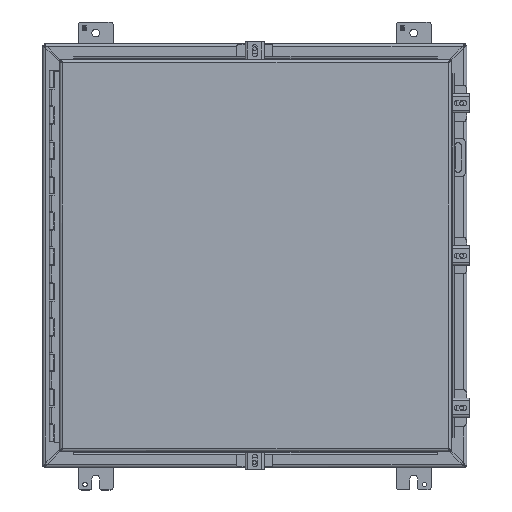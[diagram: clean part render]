
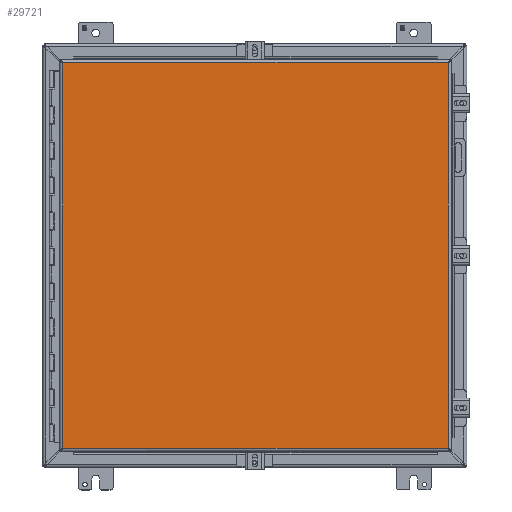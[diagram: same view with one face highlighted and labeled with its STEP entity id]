
A CAD part, top view. The second image highlights one B-rep face of the part: STEP entity #29721.
In plain terms, the highlighted planar face has unit normal (0, 0, 1) as drawn and (0, 0, -1) by its records, which use the part's own axes.
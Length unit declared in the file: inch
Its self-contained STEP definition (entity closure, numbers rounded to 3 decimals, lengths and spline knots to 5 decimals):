
#25363 = DIRECTION ( 'NONE',  ( 1., 0., 0. ) ) ;
#25364 = VECTOR ( 'NONE', #25363, 39.37008 ) ;
#25365 = CARTESIAN_POINT ( 'NONE',  ( -11.01893, 10.916, 0. ) ) ;
#25366 = LINE ( 'NONE', #25365, #25364 ) ;
#25371 = CARTESIAN_POINT ( 'NONE',  ( 10.916, 10.916, 0. ) ) ;
#25373 = CARTESIAN_POINT ( 'NONE',  ( -10.916, 10.916, 0. ) ) ;
#25424 = VECTOR ( 'NONE', #25484, 39.37008 ) ;
#25425 = CARTESIAN_POINT ( 'NONE',  ( -10.916, -11.01893, 0. ) ) ;
#25426 = LINE ( 'NONE', #25425, #25424 ) ;
#25427 = DIRECTION ( 'NONE',  ( -1., 0., 0. ) ) ;
#25428 = VECTOR ( 'NONE', #25427, 39.37008 ) ;
#25429 = CARTESIAN_POINT ( 'NONE',  ( 11.01893, -10.916, 0. ) ) ;
#25430 = LINE ( 'NONE', #25429, #25428 ) ;
#25433 = CARTESIAN_POINT ( 'NONE',  ( -10.916, -10.916, 0. ) ) ;
#25438 = DIRECTION ( 'NONE',  ( -1., 0., 0. ) ) ;
#25439 = DIRECTION ( 'NONE',  ( 0., 0., -1. ) ) ;
#25440 = CARTESIAN_POINT ( 'NONE',  ( -11.095, 11.095, 0. ) ) ;
#25441 = AXIS2_PLACEMENT_3D ( 'NONE', #25440, #25439, #25438 ) ;
#25442 = PLANE ( 'NONE',  #25441 ) ;
#25444 = FACE_OUTER_BOUND ( 'NONE', #29720, .T. ) ;
#25454 = CARTESIAN_POINT ( 'NONE',  ( 10.916, -10.916, 0. ) ) ;
#25484 = DIRECTION ( 'NONE',  ( 0., 1., 0. ) ) ;
#25628 = DIRECTION ( 'NONE',  ( 0., -1., 0. ) ) ;
#25629 = VECTOR ( 'NONE', #25628, 39.37008 ) ;
#25630 = CARTESIAN_POINT ( 'NONE',  ( 10.916, 11.01893, 0. ) ) ;
#25633 = LINE ( 'NONE', #25630, #25629 ) ;
#29684 = VERTEX_POINT ( 'NONE', #25373 ) ;
#29687 = VERTEX_POINT ( 'NONE', #25371 ) ;
#29690 = ORIENTED_EDGE ( 'NONE', *, *, #29692, .T. ) ;
#29692 = EDGE_CURVE ( 'NONE', #29684, #29687, #25366, .T. ) ;
#29717 = VERTEX_POINT ( 'NONE', #25454 ) ;
#29720 = EDGE_LOOP ( 'NONE', ( #29725, #29728, #29690, #29814 ) ) ;
#29721 = ADVANCED_FACE ( 'NONE', ( #25444 ), #25442, .T. ) ;
#29724 = VERTEX_POINT ( 'NONE', #25433 ) ;
#29725 = ORIENTED_EDGE ( 'NONE', *, *, #29726, .T. ) ;
#29726 = EDGE_CURVE ( 'NONE', #29717, #29724, #25430, .T. ) ;
#29727 = EDGE_CURVE ( 'NONE', #29724, #29684, #25426, .T. ) ;
#29728 = ORIENTED_EDGE ( 'NONE', *, *, #29727, .T. ) ;
#29812 = EDGE_CURVE ( 'NONE', #29687, #29717, #25633, .T. ) ;
#29814 = ORIENTED_EDGE ( 'NONE', *, *, #29812, .T. ) ;
